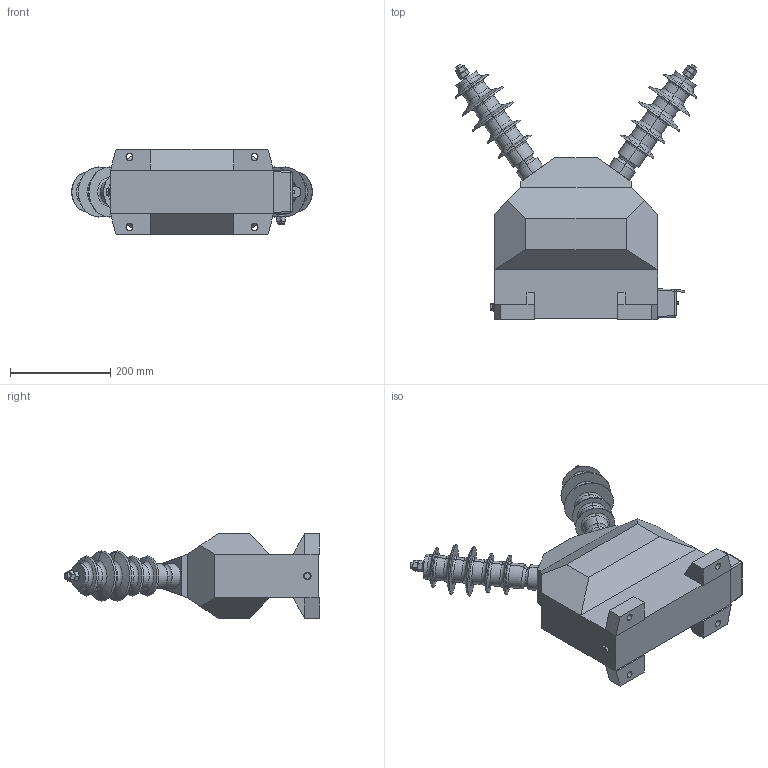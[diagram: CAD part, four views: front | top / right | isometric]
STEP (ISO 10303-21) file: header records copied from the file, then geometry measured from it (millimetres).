
FILE_DESCRIPTION (( 'STEP AP214' ), '1' );
FILE_NAME ('29700-022_FM-24ksz_Körvonal.STEP', '2025-06-28T09:45:47', ( '' ), ( '' ), 'SwSTEP 2.0', 'SolidWorks 2020', '' );
FILE_SCHEMA (( 'AUTOMOTIVE_DESIGN' ));
Length unit declared in the file: millimetre
Products named in the file (1): 29700-022_FM-24ksz_Körvonal
Bounding box: 483.19 x 511.08 x 170 mm (x, y, z)
Volume: 11996089.1 mm3; surface area: 524405.4 mm2
Topology: 1 solids, 2 shells, 477 faces, 1087 edges, 634 vertices
Faces by surface type: plane 179, cylinder 132, torus 82, cone 46, sphere 32, bspline 6
Entity records: 17912 total; most frequent: CARTESIAN_POINT 3655, DIRECTION 2377, ORIENTED_EDGE 2146, EDGE_CURVE 1073, AXIS2_PLACEMENT_3D 954, VERTEX_POINT 634, EDGE_LOOP 521, CIRCLE 482
